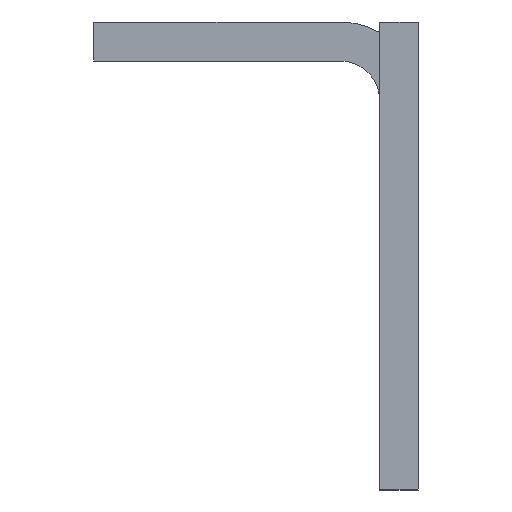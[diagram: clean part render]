
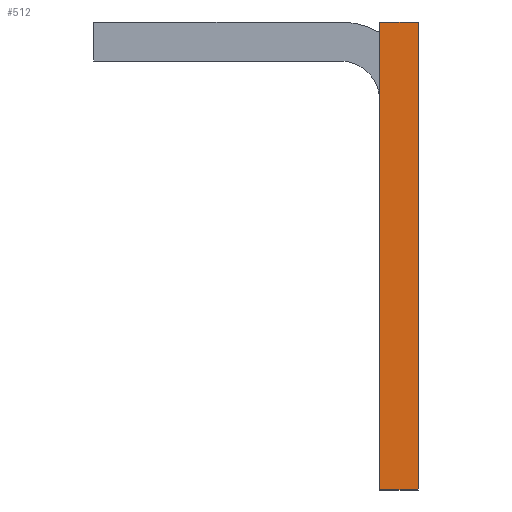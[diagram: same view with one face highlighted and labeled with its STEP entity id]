
A CAD part, left-side view. The second image highlights one B-rep face of the part: STEP entity #512.
In plain terms, the highlighted planar face has unit normal (-1, 0, 0).
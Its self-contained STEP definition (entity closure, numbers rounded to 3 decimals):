
#12 = LINE ( 'NONE', #592, #723 ) ;
#77 = FACE_OUTER_BOUND ( 'NONE', #211, .T. ) ;
#133 = DIRECTION ( 'NONE',  ( 0., -1., 0. ) ) ;
#155 = ORIENTED_EDGE ( 'NONE', *, *, #579, .F. ) ;
#204 = ORIENTED_EDGE ( 'NONE', *, *, #452, .T. ) ;
#207 = VECTOR ( 'NONE', #730, 1000. ) ;
#211 = EDGE_LOOP ( 'NONE', ( #155, #1743, #204, #1418 ) ) ;
#257 = CARTESIAN_POINT ( 'NONE',  ( -253., 3., 0. ) ) ;
#348 = DIRECTION ( 'NONE',  ( 0., 0., -1. ) ) ;
#411 = EDGE_CURVE ( 'NONE', #1548, #871, #12, .T. ) ;
#452 = EDGE_CURVE ( 'NONE', #1883, #1548, #1459, .T. ) ;
#456 = AXIS2_PLACEMENT_3D ( 'NONE', #494, #641, #1086 ) ;
#494 = CARTESIAN_POINT ( 'NONE',  ( -253., 6., -3. ) ) ;
#512 = ADVANCED_FACE ( 'NONE', ( #77 ), #1237, .T. ) ;
#579 = EDGE_CURVE ( 'NONE', #1055, #871, #762, .T. ) ;
#592 = CARTESIAN_POINT ( 'NONE',  ( -253., 3., -36. ) ) ;
#630 = VECTOR ( 'NONE', #133, 1000. ) ;
#641 = DIRECTION ( 'NONE',  ( -1., 0., 0. ) ) ;
#691 = VECTOR ( 'NONE', #348, 1000. ) ;
#723 = VECTOR ( 'NONE', #1000, 1000. ) ;
#730 = DIRECTION ( 'NONE',  ( 0., 0., -1. ) ) ;
#762 = LINE ( 'NONE', #1643, #691 ) ;
#871 = VERTEX_POINT ( 'NONE', #1361 ) ;
#953 = EDGE_CURVE ( 'NONE', #1883, #1055, #1127, .T. ) ;
#1000 = DIRECTION ( 'NONE',  ( 0., -1., 0. ) ) ;
#1016 = CARTESIAN_POINT ( 'NONE',  ( -253., 0., 0. ) ) ;
#1055 = VERTEX_POINT ( 'NONE', #1016 ) ;
#1086 = DIRECTION ( 'NONE',  ( 0., 0., 1. ) ) ;
#1127 = LINE ( 'NONE', #257, #630 ) ;
#1237 = PLANE ( 'NONE',  #456 ) ;
#1344 = CARTESIAN_POINT ( 'NONE',  ( -253., 3., 0. ) ) ;
#1361 = CARTESIAN_POINT ( 'NONE',  ( -253., 0., -36. ) ) ;
#1418 = ORIENTED_EDGE ( 'NONE', *, *, #411, .T. ) ;
#1459 = LINE ( 'NONE', #1469, #207 ) ;
#1469 = CARTESIAN_POINT ( 'NONE',  ( -253., 3., 0. ) ) ;
#1548 = VERTEX_POINT ( 'NONE', #1649 ) ;
#1643 = CARTESIAN_POINT ( 'NONE',  ( -253., 0., 0. ) ) ;
#1649 = CARTESIAN_POINT ( 'NONE',  ( -253., 3., -36. ) ) ;
#1743 = ORIENTED_EDGE ( 'NONE', *, *, #953, .F. ) ;
#1883 = VERTEX_POINT ( 'NONE', #1344 ) ;
